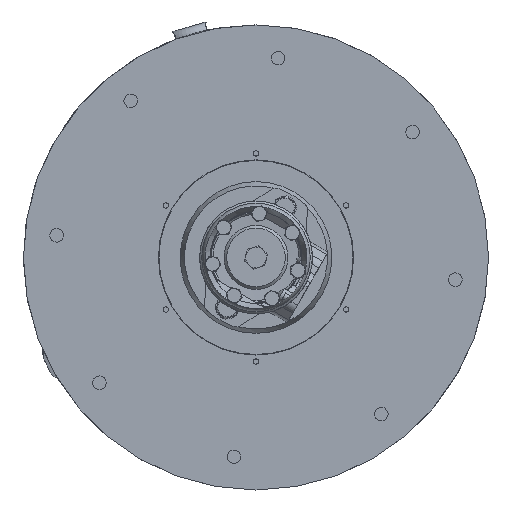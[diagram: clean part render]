
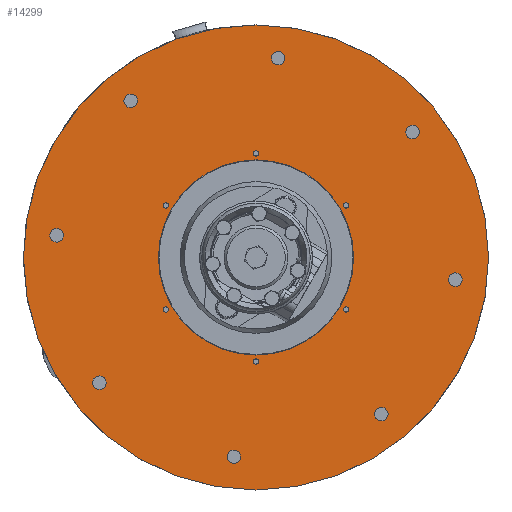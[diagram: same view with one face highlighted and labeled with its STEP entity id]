
A CAD part, front view. The second image highlights one B-rep face of the part: STEP entity #14299.
In plain terms, the highlighted planar face has unit normal (0, -1, 0).
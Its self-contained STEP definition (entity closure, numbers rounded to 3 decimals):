
#299=FACE_BOUND('',#2719,.T.);
#300=FACE_BOUND('',#2720,.T.);
#301=FACE_BOUND('',#2721,.T.);
#302=FACE_BOUND('',#2722,.T.);
#303=FACE_BOUND('',#2723,.T.);
#304=FACE_BOUND('',#2724,.T.);
#305=FACE_BOUND('',#2725,.T.);
#306=FACE_BOUND('',#2726,.T.);
#307=FACE_BOUND('',#2727,.T.);
#308=FACE_BOUND('',#2728,.T.);
#309=FACE_BOUND('',#2729,.T.);
#310=FACE_BOUND('',#2730,.T.);
#311=FACE_BOUND('',#2731,.T.);
#312=FACE_BOUND('',#2732,.T.);
#313=FACE_BOUND('',#2733,.T.);
#554=PLANE('',#15674);
#1776=FACE_OUTER_BOUND('',#2718,.T.);
#2718=EDGE_LOOP('',(#11111));
#2719=EDGE_LOOP('',(#11112));
#2720=EDGE_LOOP('',(#11113));
#2721=EDGE_LOOP('',(#11114));
#2722=EDGE_LOOP('',(#11115));
#2723=EDGE_LOOP('',(#11116));
#2724=EDGE_LOOP('',(#11117));
#2725=EDGE_LOOP('',(#11118));
#2726=EDGE_LOOP('',(#11119));
#2727=EDGE_LOOP('',(#11120));
#2728=EDGE_LOOP('',(#11121));
#2729=EDGE_LOOP('',(#11122));
#2730=EDGE_LOOP('',(#11123));
#2731=EDGE_LOOP('',(#11124));
#2732=EDGE_LOOP('',(#11125));
#2733=EDGE_LOOP('',(#11126));
#3881=CIRCLE('',#15629,2.5);
#3884=CIRCLE('',#15633,2.5);
#3887=CIRCLE('',#15637,2.5);
#3890=CIRCLE('',#15641,2.5);
#3893=CIRCLE('',#15645,2.5);
#3896=CIRCLE('',#15649,2.5);
#3898=CIRCLE('',#15653,214.5);
#3901=CIRCLE('',#15657,6.25);
#3902=CIRCLE('',#15659,6.25);
#3903=CIRCLE('',#15661,6.25);
#3904=CIRCLE('',#15663,6.25);
#3905=CIRCLE('',#15665,6.25);
#3906=CIRCLE('',#15667,6.25);
#3907=CIRCLE('',#15669,6.25);
#3908=CIRCLE('',#15671,6.25);
#3911=CIRCLE('',#15675,90.);
#6354=VERTEX_POINT('',#25429);
#6357=VERTEX_POINT('',#25437);
#6360=VERTEX_POINT('',#25445);
#6363=VERTEX_POINT('',#25453);
#6366=VERTEX_POINT('',#25461);
#6369=VERTEX_POINT('',#25469);
#6373=VERTEX_POINT('',#25531);
#6375=VERTEX_POINT('',#25538);
#6376=VERTEX_POINT('',#25542);
#6377=VERTEX_POINT('',#25546);
#6378=VERTEX_POINT('',#25550);
#6379=VERTEX_POINT('',#25554);
#6380=VERTEX_POINT('',#25558);
#6381=VERTEX_POINT('',#25562);
#6382=VERTEX_POINT('',#25566);
#6384=VERTEX_POINT('',#25600);
#8069=EDGE_CURVE('',#6354,#6354,#3881,.T.);
#8073=EDGE_CURVE('',#6357,#6357,#3884,.T.);
#8077=EDGE_CURVE('',#6360,#6360,#3887,.T.);
#8081=EDGE_CURVE('',#6363,#6363,#3890,.T.);
#8085=EDGE_CURVE('',#6366,#6366,#3893,.T.);
#8089=EDGE_CURVE('',#6369,#6369,#3896,.T.);
#8095=EDGE_CURVE('',#6373,#6373,#3898,.T.);
#8100=EDGE_CURVE('',#6375,#6375,#3901,.T.);
#8102=EDGE_CURVE('',#6376,#6376,#3902,.T.);
#8104=EDGE_CURVE('',#6377,#6377,#3903,.T.);
#8106=EDGE_CURVE('',#6378,#6378,#3904,.T.);
#8108=EDGE_CURVE('',#6379,#6379,#3905,.T.);
#8110=EDGE_CURVE('',#6380,#6380,#3906,.T.);
#8112=EDGE_CURVE('',#6381,#6381,#3907,.T.);
#8114=EDGE_CURVE('',#6382,#6382,#3908,.T.);
#8117=EDGE_CURVE('',#6384,#6384,#3911,.T.);
#11111=ORIENTED_EDGE('',*,*,#8095,.T.);
#11112=ORIENTED_EDGE('',*,*,#8069,.T.);
#11113=ORIENTED_EDGE('',*,*,#8073,.T.);
#11114=ORIENTED_EDGE('',*,*,#8077,.T.);
#11115=ORIENTED_EDGE('',*,*,#8081,.T.);
#11116=ORIENTED_EDGE('',*,*,#8085,.T.);
#11117=ORIENTED_EDGE('',*,*,#8089,.T.);
#11118=ORIENTED_EDGE('',*,*,#8100,.T.);
#11119=ORIENTED_EDGE('',*,*,#8102,.T.);
#11120=ORIENTED_EDGE('',*,*,#8104,.T.);
#11121=ORIENTED_EDGE('',*,*,#8106,.T.);
#11122=ORIENTED_EDGE('',*,*,#8108,.T.);
#11123=ORIENTED_EDGE('',*,*,#8110,.T.);
#11124=ORIENTED_EDGE('',*,*,#8112,.T.);
#11125=ORIENTED_EDGE('',*,*,#8114,.T.);
#11126=ORIENTED_EDGE('',*,*,#8117,.F.);
#14299=ADVANCED_FACE('',(#1776,#299,#300,#301,#302,#303,#304,#305,#306,
#307,#308,#309,#310,#311,#312,#313),#554,.T.);
#15629=AXIS2_PLACEMENT_3D('',#25431,#18364,#18365);
#15633=AXIS2_PLACEMENT_3D('',#25439,#18373,#18374);
#15637=AXIS2_PLACEMENT_3D('',#25447,#18382,#18383);
#15641=AXIS2_PLACEMENT_3D('',#25455,#18391,#18392);
#15645=AXIS2_PLACEMENT_3D('',#25463,#18400,#18401);
#15649=AXIS2_PLACEMENT_3D('',#25471,#18409,#18410);
#15653=AXIS2_PLACEMENT_3D('',#25532,#18418,#18419);
#15657=AXIS2_PLACEMENT_3D('',#25540,#18428,#18429);
#15659=AXIS2_PLACEMENT_3D('',#25544,#18433,#18434);
#15661=AXIS2_PLACEMENT_3D('',#25548,#18438,#18439);
#15663=AXIS2_PLACEMENT_3D('',#25552,#18443,#18444);
#15665=AXIS2_PLACEMENT_3D('',#25556,#18448,#18449);
#15667=AXIS2_PLACEMENT_3D('',#25560,#18453,#18454);
#15669=AXIS2_PLACEMENT_3D('',#25564,#18458,#18459);
#15671=AXIS2_PLACEMENT_3D('',#25568,#18463,#18464);
#15674=AXIS2_PLACEMENT_3D('',#25599,#18469,#18470);
#15675=AXIS2_PLACEMENT_3D('',#25601,#18471,#18472);
#18364=DIRECTION('center_axis',(0.,1.,0.));
#18365=DIRECTION('ref_axis',(-0.866,0.,-0.5));
#18373=DIRECTION('center_axis',(0.,1.,0.));
#18374=DIRECTION('ref_axis',(-0.866,0.,0.5));
#18382=DIRECTION('center_axis',(0.,1.,0.));
#18383=DIRECTION('ref_axis',(0.,0.,
1.));
#18391=DIRECTION('center_axis',(0.,1.,0.));
#18392=DIRECTION('ref_axis',(0.866,0.,0.5));
#18400=DIRECTION('center_axis',(0.,1.,0.));
#18401=DIRECTION('ref_axis',(0.866,0.,-0.5));
#18409=DIRECTION('center_axis',(0.,1.,0.));
#18410=DIRECTION('ref_axis',(0.,0.,
-1.));
#18418=DIRECTION('center_axis',(0.,-1.,0.));
#18419=DIRECTION('ref_axis',(0.,0.,
1.));
#18428=DIRECTION('center_axis',(0.,1.,0.));
#18429=DIRECTION('ref_axis',(0.278,0.,-0.961));
#18433=DIRECTION('center_axis',(0.,1.,0.));
#18434=DIRECTION('ref_axis',(0.278,0.,-0.961));
#18438=DIRECTION('center_axis',(0.,1.,0.));
#18439=DIRECTION('ref_axis',(0.278,0.,-0.961));
#18443=DIRECTION('center_axis',(0.,1.,0.));
#18444=DIRECTION('ref_axis',(0.278,0.,-0.961));
#18448=DIRECTION('center_axis',(0.,1.,0.));
#18449=DIRECTION('ref_axis',(0.278,0.,-0.961));
#18453=DIRECTION('center_axis',(0.,1.,0.));
#18454=DIRECTION('ref_axis',(0.278,0.,-0.961));
#18458=DIRECTION('center_axis',(0.,1.,0.));
#18459=DIRECTION('ref_axis',(0.278,0.,-0.961));
#18463=DIRECTION('center_axis',(0.,1.,0.));
#18464=DIRECTION('ref_axis',(0.278,0.,-0.961));
#18469=DIRECTION('center_axis',(0.,-1.,0.));
#18470=DIRECTION('ref_axis',(0.,0.,
1.));
#18471=DIRECTION('center_axis',(0.,-1.,0.));
#18472=DIRECTION('ref_axis',(0.,0.,
1.));
#25429=CARTESIAN_POINT('',(-80.973,0.,-46.75));
#25431=CARTESIAN_POINT('Origin',(-83.138,0.,
-48.));
#25437=CARTESIAN_POINT('',(-80.973,0.,46.75));
#25439=CARTESIAN_POINT('Origin',(-83.138,0.,48.));
#25445=CARTESIAN_POINT('',(0.,0.,93.5));
#25447=CARTESIAN_POINT('Origin',(0.,0.,
96.));
#25453=CARTESIAN_POINT('',(80.973,0.,46.75));
#25455=CARTESIAN_POINT('Origin',(83.138,0.,
48.));
#25461=CARTESIAN_POINT('',(80.973,0.,-46.75));
#25463=CARTESIAN_POINT('Origin',(83.138,0.,-48.));
#25469=CARTESIAN_POINT('',(0.,0.,-93.5));
#25471=CARTESIAN_POINT('Origin',(0.,0.,
-96.));
#25531=CARTESIAN_POINT('',(0.,0.,-214.5));
#25532=CARTESIAN_POINT('Origin',(0.,0.,
0.));
#25538=CARTESIAN_POINT('',(182.128,0.,-14.44));
#25540=CARTESIAN_POINT('Origin',(183.867,0.,
-20.444));
#25542=CARTESIAN_POINT('',(113.819,0.,-138.466));
#25544=CARTESIAN_POINT('Origin',(115.558,0.,
-144.469));
#25546=CARTESIAN_POINT('',(-22.183,0.,-177.864));
#25548=CARTESIAN_POINT('Origin',(-20.444,0.,
-183.867));
#25550=CARTESIAN_POINT('',(-146.208,0.,-109.555));
#25552=CARTESIAN_POINT('Origin',(-144.469,0.,
-115.558));
#25554=CARTESIAN_POINT('',(-185.606,0.,26.447));
#25556=CARTESIAN_POINT('Origin',(-183.867,0.,
20.444));
#25558=CARTESIAN_POINT('',(-117.297,0.,150.473));
#25560=CARTESIAN_POINT('Origin',(-115.558,0.,
144.469));
#25562=CARTESIAN_POINT('',(18.705,0.,189.87));
#25564=CARTESIAN_POINT('Origin',(20.444,0.,
183.867));
#25566=CARTESIAN_POINT('',(142.73,0.,121.561));
#25568=CARTESIAN_POINT('Origin',(144.469,0.,
115.558));
#25599=CARTESIAN_POINT('Origin',(0.,0.,
152.25));
#25600=CARTESIAN_POINT('',(0.,0.,
-90.));
#25601=CARTESIAN_POINT('Origin',(0.,0.,
0.));
